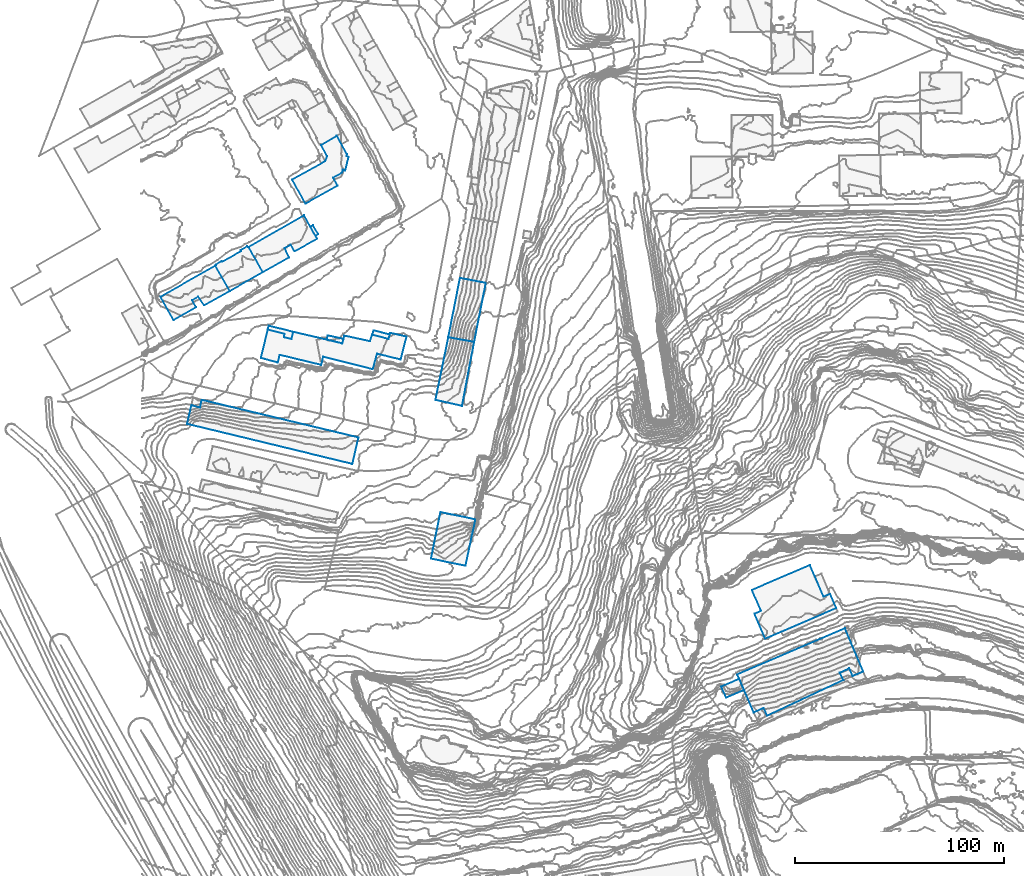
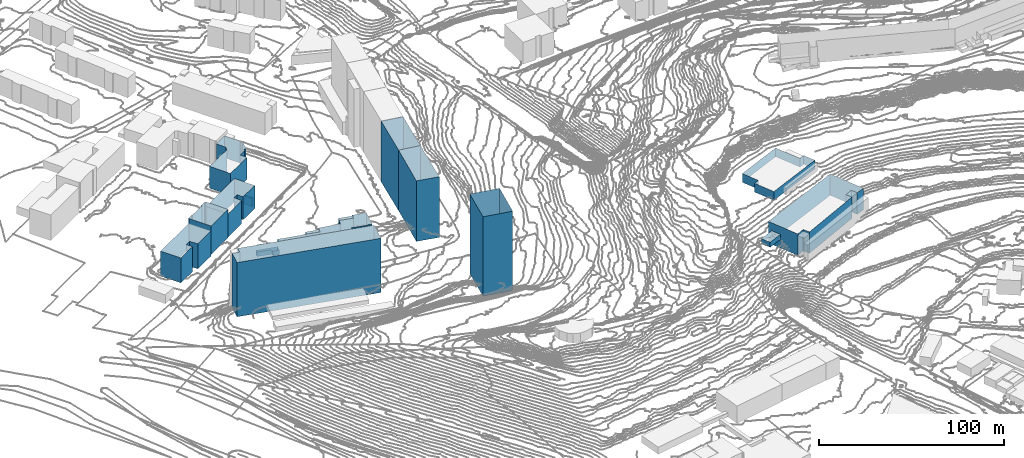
# Not in any storey, part 28 of 419: 16 walls.
"""IFC2X3 model written with IfcOpenShell, lengths in metres."""

from ifc_helpers import new_model, si_unit, frame, origin_with_axes, place, context, subcontext, project, faceted_brep, element, save


model = new_model("IFC2X3")

# Units and contexts
model_context = context("Model", 3, precision=1e-05, world=origin_with_axes())
body_context = subcontext(model_context, "Body", "Model", "MODEL_VIEW")
ifc_project = project(units=[si_unit("AREAUNIT", "SQUARE_METRE"), si_unit("LENGTHUNIT", "METRE")], contexts=[model_context])

# Walls
wall_1_placement = place(None, frame((80.4920204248, 446.0976909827, 9.7695999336), z_axis=(0.0, 0.0, 1.0), x_axis=(1.0, 0.0, 0.0)))
element("IfcWall", 1, at=wall_1_placement, Name="Mur 0", context=body_context, shape_type="Brep", body=[
    faceted_brep([(3.7, -3.6000000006, 5.4304000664), (2.4, -4.4000000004, 5.4304000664), (3.7, -3.6000000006, 0.0), (2.4, -4.4000000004, 0.0), (1.2, 0.7000000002, 5.4304000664), (1.2, 0.7000000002, 0.0), (0.0, 0.0, 5.4304000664), (0.0, 0.0, 0.0)], [[[0, 1, 2]], [[2, 1, 3]], [[4, 0, 5]], [[5, 0, 2]], [[1, 6, 3]], [[3, 6, 7]], [[6, 4, 7]], [[7, 4, 5]]]),
])
wall_2_placement = place(None, frame((109.9920204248, 394.3976909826, 13.4939999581), z_axis=(0.0, 0.0, 1.0), x_axis=(1.0, 0.0, 0.0)))
element("IfcWall", 2, at=wall_2_placement, Name="Mur 0", context=body_context, shape_type="Brep", body=[
    faceted_brep([(0.6, 2.0999999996, 6.5060000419), (8.4, 0.0999999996, 6.5060000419), (0.6, 2.0999999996, 0.0), (8.4, 0.0999999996, 0.0), (0.0, 0.0, 6.5060000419), (0.0, 0.0, 0.0), (7.7999999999, -2.0, 6.5060000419), (7.7999999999, -2.0, 0.0)], [[[0, 1, 2]], [[2, 1, 3]], [[4, 0, 5]], [[5, 0, 2]], [[1, 6, 3]], [[3, 6, 7]], [[6, 4, 7]], [[7, 4, 5]]]),
])
wall_3_placement = place(None, frame((71.7920204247, 468.5976909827, 9.7140002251), z_axis=(0.0, 0.0, 1.0), x_axis=(1.0, 0.0, 0.0)))
element("IfcWall", 3, at=wall_3_placement, Name="Mur 0", context=body_context, shape_type="Brep", body=[
    faceted_brep([(0.0, 0.0, 14.4859997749), (15.8, 8.7999999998, 14.4859997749), (0.0, 0.0, 0.0), (15.8, 8.7999999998, 0.0), (6.3, -11.5, 14.4859997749), (6.3, -11.5, 0.0), (21.6000000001, -2.9000000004, 14.4859997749), (21.6000000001, -2.9000000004, 0.0), (19.6000000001, 0.8999999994, 14.4859997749), (19.6000000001, 0.8999999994, 0.0), (23.9, 3.3999999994, 14.4859997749), (23.9, 3.3999999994, 0.0), (24.1000000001, 4.7000000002, 14.4859997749), (24.1000000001, 4.7000000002, 0.0), (25.3, 4.2999999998, 14.4859997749), (25.3, 4.2999999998, 0.0), (26.9, 10.7999999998, 14.4859997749), (26.9, 10.7999999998, 0.0), (25.9, 11.0999999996, 14.4859997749), (25.9, 11.0999999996, 0.0), (26.1000000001, 12.2000000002, 14.4859997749), (26.1000000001, 12.2000000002, 0.0), (21.3, 20.8999999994, 14.4859997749), (21.3, 20.8999999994, 0.0), (13.8, 16.5, 14.4859997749), (13.8, 16.5, 0.0), (16.6000000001, 11.2000000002, 14.4859997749), (16.6000000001, 11.2000000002, 0.0)], [[[0, 1, 2]], [[2, 1, 3]], [[4, 0, 5]], [[5, 0, 2]], [[6, 4, 7]], [[7, 4, 5]], [[8, 6, 9]], [[9, 6, 7]], [[10, 8, 11]], [[11, 8, 9]], [[12, 10, 13]], [[13, 10, 11]], [[14, 12, 15]], [[15, 12, 13]], [[16, 14, 17]], [[17, 14, 15]], [[18, 16, 19]], [[19, 16, 17]], [[20, 18, 21]], [[21, 18, 19]], [[22, 20, 23]], [[23, 20, 21]], [[24, 22, 25]], [[25, 22, 23]], [[1, 26, 3]], [[3, 26, 27]], [[26, 24, 27]], [[27, 24, 25]]]),
])
wall_4_placement = place(None, frame((50.9920204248, 436.3976909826, 9.217900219), z_axis=(0.0, 0.0, 1.0), x_axis=(1.0, 0.0, 0.0)))
element("IfcWall", 4, at=wall_4_placement, Name="Mur 0", context=body_context, shape_type="Brep", body=[
    faceted_brep([(26.4, 15.0999999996, 15.282099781), (31.9, 5.2999999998, 15.282099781), (26.4, 15.0999999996, 0.0), (31.9, 5.2999999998, 0.0), (0.0, 0.0, 15.282099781), (0.0, 0.0, 0.0), (6.7, -12.0999999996, 15.282099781), (6.7, -12.0999999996, 0.0), (19.2999999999, -5.0, 15.282099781), (19.2999999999, -5.0, 0.0), (17.2, -0.5, 15.282099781), (17.2, -0.5, 0.0), (20.1, 1.0999999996, 15.282099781), (20.1, 1.0999999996, 0.0), (21.9, -2.0999999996, 15.282099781), (21.9, -2.0999999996, 0.0), (32.7, 3.9000000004, 15.282099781), (32.7, 3.9000000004, 0.0)], [[[0, 1, 2]], [[2, 1, 3]], [[4, 0, 5]], [[5, 0, 2]], [[6, 4, 7]], [[7, 4, 5]], [[8, 6, 9]], [[9, 6, 7]], [[10, 8, 11]], [[11, 8, 9]], [[12, 10, 13]], [[13, 10, 11]], [[14, 12, 15]], [[15, 12, 13]], [[1, 16, 3]], [[3, 16, 17]], [[16, 14, 17]], [[17, 14, 15]]]),
])
wall_5_placement = place(None, frame((88.1920204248, 391.9976909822, 12.8979999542), z_axis=(0.0, 0.0, 1.0), x_axis=(1.0, 0.0, 0.0)))
element("IfcWall", 5, at=wall_5_placement, Name="Mur 0", context=body_context, shape_type="Brep", body=[
    faceted_brep([(0.5, 2.1000000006, 7.1020000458), (8.1, 0.4000000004, 7.1020000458), (0.5, 2.1000000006, 0.0), (8.1, 0.4000000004, 0.0), (0.0, 0.0, 7.1020000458), (0.0, 0.0, 0.0), (7.5, -1.6999999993, 7.1020000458), (7.5, -1.6999999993, 0.0)], [[[0, 1, 2]], [[2, 1, 3]], [[4, 0, 5]], [[5, 0, 2]], [[1, 6, 3]], [[3, 6, 7]], [[6, 4, 7]], [[7, 4, 5]]]),
])
wall_6_placement = place(None, frame((60.0920204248, 396.8976909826, 12.1372999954), z_axis=(0.0, 0.0, 1.0), x_axis=(1.0, 0.0, 0.0)))
element("IfcWall", 6, at=wall_6_placement, Name="Mur 0", context=body_context, shape_type="Brep", body=[
    faceted_brep([(8.0, -2.0999999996, 2.9627000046), (0.0, 0.0, 2.9627000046), (8.0, -2.0999999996, 0.0), (0.0, 0.0, 0.0), (7.7, -3.7000000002, 2.9627000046), (7.7, -3.7000000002, 0.0), (11.3, -4.5, 2.9627000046), (11.3, -4.5, 0.0), (12.2, -1.0999999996, 2.9627000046), (12.2, -1.0999999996, 0.0), (0.4, 1.7999999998, 2.9627000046), (0.4, 1.7999999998, 0.0)], [[[0, 1, 2]], [[2, 1, 3]], [[4, 0, 5]], [[5, 0, 2]], [[6, 4, 7]], [[7, 4, 5]], [[8, 6, 9]], [[9, 6, 7]], [[1, 10, 3]], [[3, 10, 11]], [[10, 8, 11]], [[11, 8, 9]]]),
])
wall_7_placement = place(None, frame((8.7920204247, 412.5976909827, 7.6424999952), z_axis=(0.0, 0.0, 1.0), x_axis=(1.0, 0.0, 0.0)))
element("IfcWall", 7, at=wall_7_placement, Name="Mur 0", context=body_context, shape_type="Brep", body=[
    faceted_brep([(26.2000000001, 14.7999999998, 16.5575000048), (33.2000000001, 2.7999999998, 16.5575000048), (26.2000000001, 14.7999999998, 0.0), (33.2000000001, 2.7999999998, 0.0), (0.0, 0.0, 16.5575000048), (0.0, 0.0, 0.0), (6.3, -11.1000000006, 16.5575000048), (6.3, -11.1000000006, 0.0), (17.0, -5.0, 16.5575000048), (17.0, -5.0, 0.0), (15.1000000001, -1.7000000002, 16.5575000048), (15.1000000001, -1.7000000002, 0.0), (18.1000000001, 0.0999999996, 16.5575000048), (18.1000000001, 0.0999999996, 0.0), (20.9, -4.1000000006, 16.5575000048), (20.9, -4.1000000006, 0.0)], [[[0, 1, 2]], [[2, 1, 3]], [[4, 0, 5]], [[5, 0, 2]], [[6, 4, 7]], [[7, 4, 5]], [[8, 6, 9]], [[9, 6, 7]], [[10, 8, 11]], [[11, 8, 9]], [[12, 10, 13]], [[13, 10, 11]], [[1, 14, 3]], [[3, 14, 15]], [[14, 12, 15]], [[15, 12, 13]]]),
])
wall_8_placement = place(None, frame((276.7920204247, 226.2976909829, 48.1744001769), z_axis=(0.0, 0.0, 1.0), x_axis=(1.0, 0.0, 0.0)))
element("IfcWall", 8, at=wall_8_placement, Name="Mur 0", context=body_context, shape_type="Brep", body=[
    faceted_brep([(8.6000000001, 3.6999999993, 3.3255998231), (10.9, -1.6000000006, 3.3255998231), (8.6000000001, 3.6999999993, 0.0), (10.9, -1.6000000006, 0.0), (0.0, 0.0, 3.3255998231), (0.0, 0.0, 0.0), (2.4, -5.3000000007, 3.3255998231), (2.4, -5.3000000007, 0.0)], [[[0, 1, 2]], [[2, 1, 3]], [[4, 0, 5]], [[5, 0, 2]], [[1, 6, 3]], [[3, 6, 7]], [[6, 4, 7]], [[7, 4, 5]]]),
])
wall_9_placement = place(None, frame((34.9920204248, 427.3976909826, 8.6459999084), z_axis=(0.0, 0.0, 1.0), x_axis=(1.0, 0.0, 0.0)))
element("IfcWall", 9, at=wall_9_placement, Name="Mur 0", context=body_context, shape_type="Brep", body=[
    faceted_brep([(16.0, 9.0, 18.8540000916), (22.7, -3.0999999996, 18.8540000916), (16.0, 9.0, 0.0), (22.7, -3.0999999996, 0.0), (15.6, 8.7999999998, 18.8540000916), (15.6, 8.7999999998, 0.0), (15.2999999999, 9.2999999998, 18.8540000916), (15.2999999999, 9.2999999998, 0.0), (12.1, 7.5, 18.8540000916), (12.1, 7.5, 0.0), (12.4, 7.0, 18.8540000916), (12.4, 7.0, 0.0), (3.2999999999, 1.9000000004, 18.8540000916), (3.2999999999, 1.9000000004, 0.0), (3.1, 2.2000000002, 18.8540000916), (3.1, 2.2000000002, 0.0), (0.2999999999, 0.5999999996, 18.8540000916), (0.2999999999, 0.5999999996, 0.0), (0.5, 0.2999999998, 18.8540000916), (0.5, 0.2999999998, 0.0), (0.0, 0.0, 18.8540000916), (0.0, 0.0, 0.0), (7.0, -12.0, 18.8540000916), (7.0, -12.0, 0.0)], [[[0, 1, 2]], [[2, 1, 3]], [[4, 0, 5]], [[5, 0, 2]], [[6, 4, 7]], [[7, 4, 5]], [[8, 6, 9]], [[9, 6, 7]], [[10, 8, 11]], [[11, 8, 9]], [[12, 10, 13]], [[13, 10, 11]], [[14, 12, 15]], [[15, 12, 13]], [[16, 14, 17]], [[17, 14, 15]], [[18, 16, 19]], [[19, 16, 17]], [[20, 18, 21]], [[21, 18, 19]], [[1, 22, 3]], [[3, 22, 23]], [[22, 20, 23]], [[23, 20, 21]]]),
])
wall_10_placement = place(None, frame((291.4920204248, 272.4976909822, 55.600801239), z_axis=(0.0, 0.0, 1.0), x_axis=(1.0, 0.0, 0.0)))
element("IfcWall", 10, at=wall_10_placement, Name="Mur 0", context=body_context, shape_type="Brep", body=[
    faceted_brep([(34.2, -3.1999999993, 5.799198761), (37.2999999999, -1.8999999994, 5.799198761), (34.2, -3.1999999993, 0.0), (37.2999999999, -1.8999999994, 0.0), (27.7, 11.9000000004, 5.799198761), (27.7, 11.9000000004, 0.0), (0.0, 0.0, 5.799198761), (0.0, 0.0, 0.0), (4.2999999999, -10.0, 5.799198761), (4.2999999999, -10.0, 0.0), (1.2, -11.3999999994, 5.799198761), (1.2, -11.3999999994, 0.0), (6.2999999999, -23.2999999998, 5.799198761), (6.2999999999, -23.2999999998, 0.0), (40.2999999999, -8.6999999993, 5.799198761), (40.2999999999, -8.6999999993, 0.0)], [[[0, 1, 2]], [[2, 1, 3]], [[4, 0, 5]], [[5, 0, 2]], [[6, 4, 7]], [[7, 4, 5]], [[8, 6, 9]], [[9, 6, 7]], [[10, 8, 11]], [[11, 8, 9]], [[12, 10, 13]], [[13, 10, 11]], [[1, 14, 3]], [[3, 14, 15]], [[14, 12, 15]], [[15, 12, 13]]]),
])
wall_11_placement = place(None, frame((138.0920204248, 287.3976909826, 24.9659996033), z_axis=(0.0, 0.0, 1.0), x_axis=(1.0, 0.0, 0.0)))
element("IfcWall", 11, at=wall_11_placement, Name="Mur 0", context=body_context, shape_type="Brep", body=[
    faceted_brep([(4.5, 22.2000000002, 52.5340003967), (21.2, 18.7999999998, 52.5340003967), (4.5, 22.2000000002, 0.0), (21.2, 18.7999999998, 0.0), (0.0, 0.0, 52.5340003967), (0.0, 0.0, 0.0), (16.5, -3.4000000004, 52.5340003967), (16.5, -3.4000000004, 0.0)], [[[0, 1, 2]], [[2, 1, 3]], [[4, 0, 5]], [[5, 0, 2]], [[1, 6, 3]], [[3, 6, 7]], [[6, 4, 7]], [[7, 4, 5]]]),
])
wall_12_placement = place(None, frame((284.4920204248, 232.0976909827, 42.5580001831), z_axis=(0.0, 0.0, 1.0), x_axis=(1.0, 0.0, 0.0)))
element("IfcWall", 12, at=wall_12_placement, Name="Mur 0", context=body_context, shape_type="Brep", body=[
    faceted_brep([(12.5, -16.0, 14.1419998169), (7.9, -18.2000000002, 14.1419998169), (12.5, -16.0, 0.0), (7.9, -18.2000000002, 0.0), (14.2999999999, -19.7000000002, 14.1419998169), (14.2999999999, -19.7000000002, 0.0), (50.7999999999, -2.6000000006, 14.1419998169), (50.7999999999, -2.6000000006, 0.0), (48.9, 0.7999999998, 14.1419998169), (48.9, 0.7999999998, 0.0), (53.5, 2.8999999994, 14.1419998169), (53.5, 2.8999999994, 0.0), (55.1, -0.7000000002, 14.1419998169), (55.1, -0.7000000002, 0.0), (60.2, 1.3999999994, 14.1419998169), (60.2, 1.3999999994, 0.0), (51.4, 22.0999999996, 14.1419998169), (51.4, 22.0999999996, 0.0), (0.0, 0.0, 14.1419998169), (0.0, 0.0, 0.0)], [[[0, 1, 2]], [[2, 1, 3]], [[4, 0, 5]], [[5, 0, 2]], [[6, 4, 7]], [[7, 4, 5]], [[8, 6, 9]], [[9, 6, 7]], [[10, 8, 11]], [[11, 8, 9]], [[12, 10, 13]], [[13, 10, 11]], [[14, 12, 15]], [[15, 12, 13]], [[16, 14, 17]], [[17, 14, 15]], [[1, 18, 3]], [[3, 18, 19]], [[18, 16, 19]], [[19, 16, 17]]]),
])
wall_13_placement = place(None, frame((146.3920204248, 393.1976909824, 14.3413999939), z_axis=(0.0, 0.0, 1.0), x_axis=(1.0, 0.0, 0.0)))
element("IfcWall", 13, at=wall_13_placement, Name="Mur 0", context=body_context, shape_type="Brep", body=[
    faceted_brep([(12.2999999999, -2.2000000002, 40.1586000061), (0.0, 0.0, 40.1586000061), (12.2999999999, -2.2000000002, 0.0), (0.0, 0.0, 0.0), (17.8999999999, 26.0, 40.1586000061), (17.8999999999, 26.0, 0.0), (5.5, 28.4000000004, 40.1586000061), (5.5, 28.4000000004, 0.0)], [[[0, 1, 2]], [[2, 1, 3]], [[4, 0, 5]], [[5, 0, 2]], [[1, 6, 3]], [[3, 6, 7]], [[6, 4, 7]], [[7, 4, 5]]]),
])
wall_14_placement = place(None, frame((56.7920204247, 383.2976909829, 12.182500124), z_axis=(0.0, 0.0, 1.0), x_axis=(1.0, 0.0, 0.0)))
element("IfcWall", 14, at=wall_14_placement, Name="Mur 0", context=body_context, shape_type="Brep", body=[
    faceted_brep([(61.0, 9.0999999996, 7.817499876), (61.6000000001, 11.1999999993, 7.817499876), (61.0, 9.0999999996, 0.0), (61.6000000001, 11.1999999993, 0.0), (53.2000000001, 11.0999999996, 7.817499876), (53.2000000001, 11.0999999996, 0.0), (52.1000000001, 8.0, 7.817499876), (52.1000000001, 8.0, 0.0), (39.9, 10.6999999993, 7.817499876), (39.9, 10.6999999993, 0.0), (38.9, 7.0, 7.817499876), (38.9, 7.0, 0.0), (15.5, 12.5, 7.817499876), (15.5, 12.5, 0.0), (14.6000000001, 9.0999999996, 7.817499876), (14.6000000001, 9.0999999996, 0.0), (11.0, 9.8999999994, 7.817499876), (11.0, 9.8999999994, 0.0), (11.3, 11.5, 7.817499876), (11.3, 11.5, 0.0), (3.3, 13.5999999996, 7.817499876), (3.3, 13.5999999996, 0.0), (0.0, 0.0, 7.817499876), (0.0, 0.0, 0.0), (8.1000000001, -2.1000000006, 7.817499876), (8.1000000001, -2.1000000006, 0.0), (9.0, 1.5, 7.817499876), (9.0, 1.5, 0.0), (28.8, -3.3000000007, 7.817499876), (28.8, -3.3000000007, 0.0), (29.8, 0.5999999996, 7.817499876), (29.8, 0.5999999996, 0.0), (53.5, -5.4000000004, 7.817499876), (53.5, -5.4000000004, 0.0), (55.5, 2.0, 7.817499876), (55.5, 2.0, 0.0), (66.8, -0.7000000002, 7.817499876), (66.8, -0.7000000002, 0.0), (69.6000000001, 10.1999999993, 7.817499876), (69.6000000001, 10.1999999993, 0.0), (61.8, 12.0, 7.817499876), (61.8, 12.0, 0.0)], [[[0, 1, 2]], [[2, 1, 3]], [[4, 0, 5]], [[5, 0, 2]], [[6, 4, 7]], [[7, 4, 5]], [[8, 6, 9]], [[9, 6, 7]], [[10, 8, 11]], [[11, 8, 9]], [[12, 10, 13]], [[13, 10, 11]], [[14, 12, 15]], [[15, 12, 13]], [[16, 14, 17]], [[17, 14, 15]], [[18, 16, 19]], [[19, 16, 17]], [[20, 18, 21]], [[21, 18, 19]], [[22, 20, 23]], [[23, 20, 21]], [[24, 22, 25]], [[25, 22, 23]], [[26, 24, 27]], [[27, 24, 25]], [[28, 26, 29]], [[29, 26, 27]], [[30, 28, 31]], [[31, 28, 29]], [[32, 30, 33]], [[33, 30, 31]], [[34, 32, 35]], [[35, 32, 33]], [[36, 34, 37]], [[37, 34, 35]], [[38, 36, 39]], [[39, 36, 37]], [[1, 40, 3]], [[3, 40, 41]], [[40, 38, 41]], [[41, 38, 39]]]),
])
wall_15_placement = place(None, frame((140.1920204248, 363.2976909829, 14.4428000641), z_axis=(0.0, 0.0, 1.0), x_axis=(1.0, 0.0, 0.0)))
element("IfcWall", 15, at=wall_15_placement, Name="Mur 0", context=body_context, shape_type="Brep", body=[
    faceted_brep([(0.0, 0.0, 40.0571999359), (6.2000000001, 29.8999999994, 40.0571999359), (0.0, 0.0, 0.0), (6.2000000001, 29.8999999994, 0.0), (12.7000000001, -2.9000000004, 40.0571999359), (12.7000000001, -2.9000000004, 0.0), (18.5, 27.6999999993, 40.0571999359), (18.5, 27.6999999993, 0.0)], [[[0, 1, 2]], [[2, 1, 3]], [[4, 0, 5]], [[5, 0, 2]], [[1, 6, 3]], [[3, 6, 7]], [[6, 4, 7]], [[7, 4, 5]]]),
])
wall_16_placement = place(None, frame((21.4920204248, 351.7976909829, 13.1490001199), z_axis=(0.0, 0.0, 1.0), x_axis=(1.0, 0.0, 0.0)))
element("IfcWall", 16, at=wall_16_placement, Name="Mur 0", context=body_context, shape_type="Brep", body=[
    faceted_brep([(6.2, 7.7999999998, 35.8509998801), (7.0, 11.5, 35.8509998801), (6.2, 7.7999999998, 0.0), (7.0, 11.5, 0.0), (2.1, 8.8999999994, 35.8509998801), (2.1, 8.8999999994, 0.0), (0.0, 0.0, 35.8509998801), (0.0, 0.0, 0.0), (79.0, -19.1000000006, 35.8509998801), (79.0, -19.1000000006, 0.0), (81.9, -6.5, 35.8509998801), (81.9, -6.5, 0.0)], [[[0, 1, 2]], [[2, 1, 3]], [[4, 0, 5]], [[5, 0, 2]], [[6, 4, 7]], [[7, 4, 5]], [[8, 6, 9]], [[9, 6, 7]], [[1, 10, 3]], [[3, 10, 11]], [[10, 8, 11]], [[11, 8, 9]]]),
])

save(model, "model.ifc")
